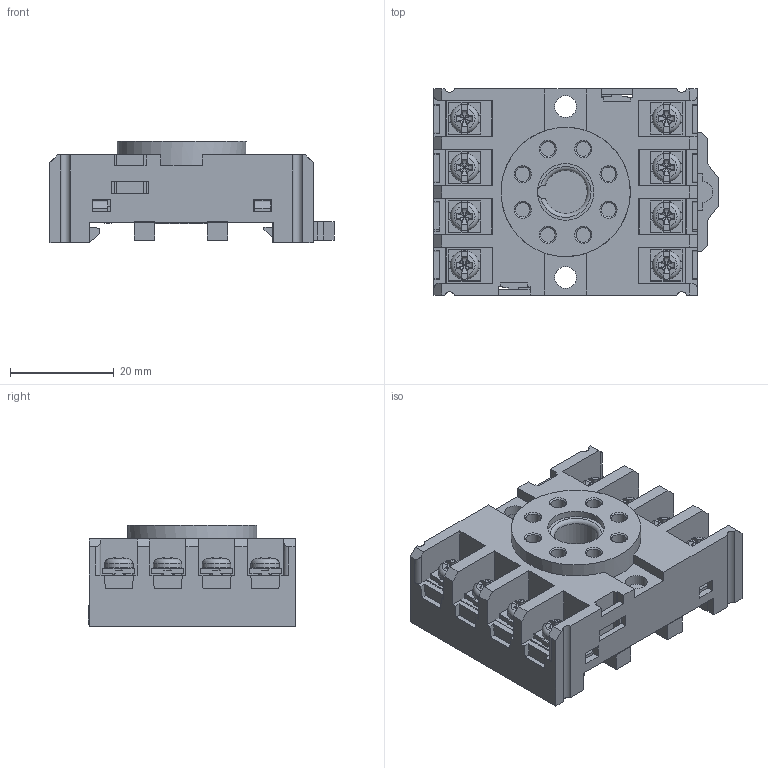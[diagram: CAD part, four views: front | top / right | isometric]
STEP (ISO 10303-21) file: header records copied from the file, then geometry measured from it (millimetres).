
FILE_DESCRIPTION(/* description */ (''),/* implementation_level */ '2;1');
FILE_NAME(/* name */ '10f-2z-c1.stp',/* time_stamp */ '2023-06-08T09:14:06+08:00',/* author */ (''),/* organization */ (''),/* preprocessor_version */ 'ST-DEVELOPER v11',/* originating_system */ 'SIEMENS UGS NX 6.0',/* authorisation */ '');
FILE_SCHEMA (('CONFIG_CONTROL_DESIGN'));
Products named in the file (1): 10f-2z-c1
Bounding box: 54.7 x 40 x 19.5 mm (x, y, z)
Volume: 21379.4 mm3; surface area: 21748.1 mm2
Topology: 19 solids, 19 shells, 1444 faces, 4006 edges, 2489 vertices
Faces by surface type: plane 864, cylinder 331, bspline 144, sphere 80, cone 16, torus 9
Full cylindrical faces by diameter (mm): 2 x2, 2.5 x72, 2.8 x8, 3 x8, 4 x8, 4.2 x2, 5 x8, 5.498 x8, 10.9 x1, 15 x1, 24.9 x1
Entity records: 60608 total; most frequent: CARTESIAN_POINT 27203, ORIENTED_EDGE 7112, DIRECTION 6599, EDGE_CURVE 3556, LINE 2501, VECTOR 2501, VERTEX_POINT 2310, AXIS2_PLACEMENT_3D 2049
